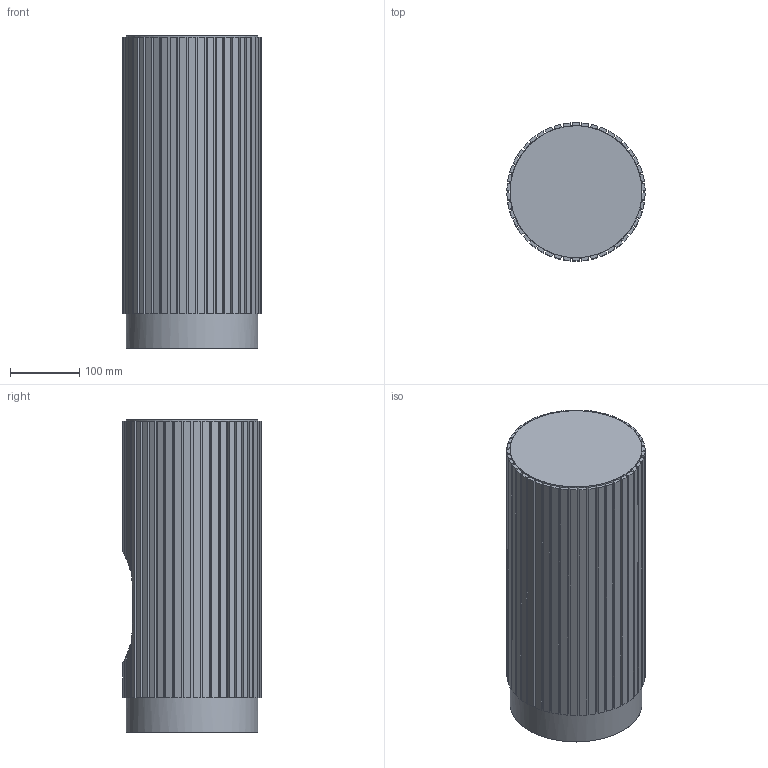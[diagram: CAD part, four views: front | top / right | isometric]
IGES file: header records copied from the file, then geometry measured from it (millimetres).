
Global section: file name: C:\Users\hp\Desktop\8281_8282_Panay\8281_8282_PANAY.igs; native system: Rhinoceros ( Mar  7 2025 ); preprocessor: Trout Lake IGES 012 Mar  7 2025; date: 250331.093354; units: millimetre
Bounding box: 199.22 x 199 x 450 mm (x, y, z)
Surface area: 703521.3 mm2 (no closed solid volume)
Topology: 0 solids, 0 shells, 301 faces, 1766 edges, 1751 vertices
Faces by surface type: bspline 301
